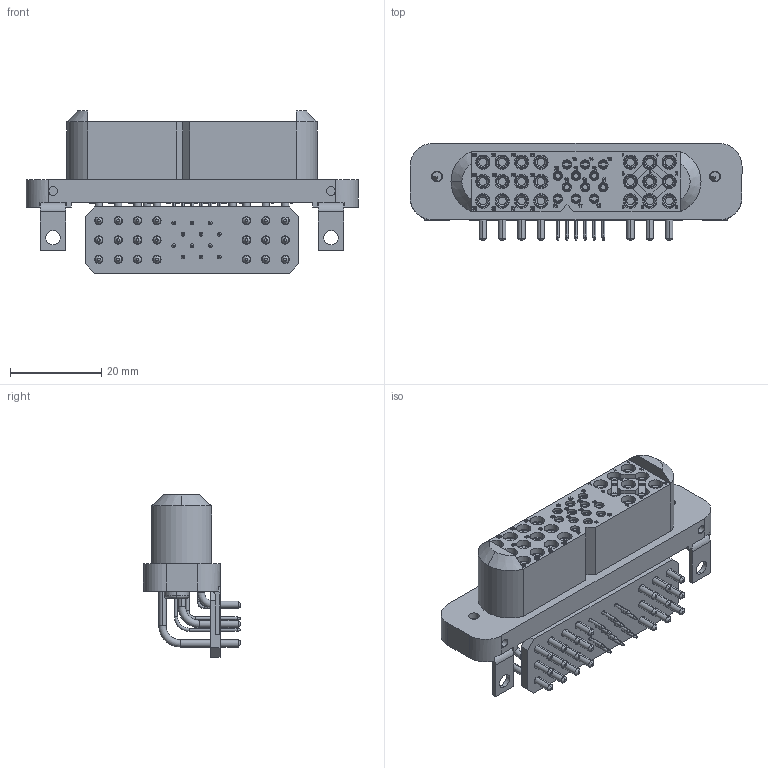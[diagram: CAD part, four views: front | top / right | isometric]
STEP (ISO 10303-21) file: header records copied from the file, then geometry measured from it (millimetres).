
FILE_DESCRIPTION (( 'STEP AP203' ), '1' );
FILE_NAME ('GFSH02F4B.STEP', '2024-08-09T05:37:04', ( '' ), ( '' ), 'SwSTEP 2.0', 'SolidWorks 2021', '' );
FILE_SCHEMA (( 'CONFIG_CONTROL_DESIGN' ));
Length unit declared in the file: millimetre
Products named in the file (1): GFSH02F4B
Bounding box: 72.86 x 21.29 x 35.58 mm (x, y, z)
Volume: 16872.5 mm3; surface area: 11698.5 mm2
Topology: 1 solids, 3 shells, 3072 faces, 7917 edges, 5180 vertices
Faces by surface type: plane 1207, bspline 933, cylinder 601, cone 261, torus 70
Entity records: 155064 total; most frequent: CARTESIAN_POINT 85911, ORIENTED_EDGE 15834, DIRECTION 11487, EDGE_CURVE 7917, VERTEX_POINT 5180, LINE 4035, VECTOR 4035, AXIS2_PLACEMENT_3D 3726
